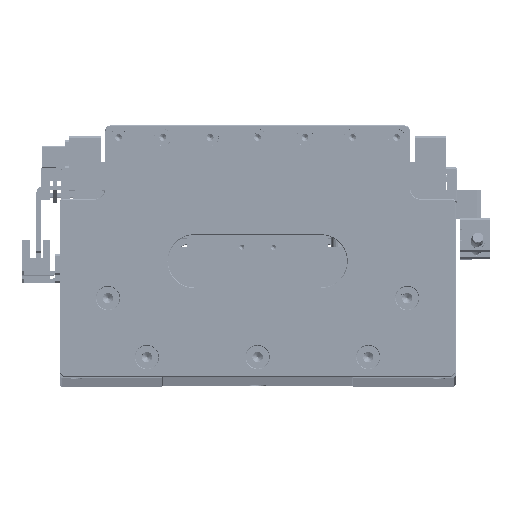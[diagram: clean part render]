
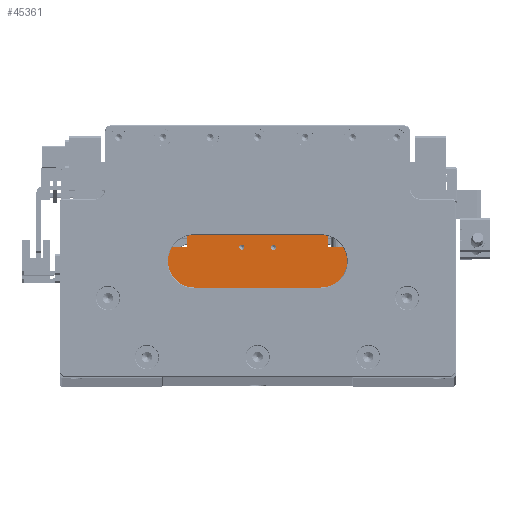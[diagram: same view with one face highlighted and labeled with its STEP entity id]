
A CAD part, top view. The second image highlights one B-rep face of the part: STEP entity #45361.
In plain terms, the highlighted planar face has unit normal (0, 0, 1).
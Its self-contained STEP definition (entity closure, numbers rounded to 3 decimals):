
#1426 = ORIENTED_EDGE ( 'NONE', *, *, #89436, .T. ) ;
#4040 = ORIENTED_EDGE ( 'NONE', *, *, #26707, .T. ) ;
#5403 = ORIENTED_EDGE ( 'NONE', *, *, #35980, .T. ) ;
#7996 = ORIENTED_EDGE ( 'NONE', *, *, #66668, .T. ) ;
#8465 = DIRECTION ( 'NONE',  ( 0., 0., -1. ) ) ;
#9791 = CARTESIAN_POINT ( 'NONE',  ( -8.75, -8., 125. ) ) ;
#10417 = ORIENTED_EDGE ( 'NONE', *, *, #115477, .T. ) ;
#10799 = PLANE ( 'NONE',  #16724 ) ;
#12158 = CARTESIAN_POINT ( 'NONE',  ( -45., -40.2, 125. ) ) ;
#12566 = CARTESIAN_POINT ( 'NONE',  ( -33.5, 0., 125. ) ) ;
#13363 = CARTESIAN_POINT ( 'NONE',  ( 0., -8., 125. ) ) ;
#16724 = AXIS2_PLACEMENT_3D ( 'NONE', #20698, #87050, #30242 ) ;
#17274 = VECTOR ( 'NONE', #118228, 1000. ) ;
#18500 = CIRCLE ( 'NONE', #23425, 1.25 ) ;
#18649 = CARTESIAN_POINT ( 'NONE',  ( -7.5, -8., 125. ) ) ;
#20698 = CARTESIAN_POINT ( 'NONE',  ( 0., 0., 125. ) ) ;
#20783 = AXIS2_PLACEMENT_3D ( 'NONE', #92642, #35884, #102169 ) ;
#20786 = VERTEX_POINT ( 'NONE', #12158 ) ;
#20907 = ORIENTED_EDGE ( 'NONE', *, *, #28316, .T. ) ;
#21036 = CARTESIAN_POINT ( 'NONE',  ( 6.25, -8., 125. ) ) ;
#21667 = FACE_OUTER_BOUND ( 'NONE', #24257, .T. ) ;
#23425 = AXIS2_PLACEMENT_3D ( 'NONE', #18649, #85009, #28183 ) ;
#24257 = EDGE_LOOP ( 'NONE', ( #99243, #10417, #78969, #4040, #5403, #114319, #7996, #1426 ) ) ;
#24648 = FACE_BOUND ( 'NONE', #49626, .T. ) ;
#24805 = CARTESIAN_POINT ( 'NONE',  ( -33.5, -8., 125. ) ) ;
#25164 = VECTOR ( 'NONE', #90836, 1000. ) ;
#26707 = EDGE_CURVE ( 'NONE', #80214, #80959, #58622, .T. ) ;
#28183 = DIRECTION ( 'NONE',  ( 1., 0., 0. ) ) ;
#28316 = EDGE_CURVE ( 'NONE', #109390, #77239, #18500, .T. ) ;
#30242 = DIRECTION ( 'NONE',  ( 1., 0., 0. ) ) ;
#33624 = DIRECTION ( 'NONE',  ( 0., 0., -1. ) ) ;
#34037 = CARTESIAN_POINT ( 'NONE',  ( 0., -8., 125. ) ) ;
#35884 = DIRECTION ( 'NONE',  ( 0., 0., -1. ) ) ;
#35980 = EDGE_CURVE ( 'NONE', #80959, #86854, #75613, .T. ) ;
#38064 = VECTOR ( 'NONE', #78910, 1000. ) ;
#38328 = VECTOR ( 'NONE', #119236, 1000. ) ;
#40850 = CARTESIAN_POINT ( 'NONE',  ( 45., 0., 125. ) ) ;
#41057 = LINE ( 'NONE', #12566, #38064 ) ;
#43662 = EDGE_CURVE ( 'NONE', #86854, #51344, #85815, .T. ) ;
#44119 = AXIS2_PLACEMENT_3D ( 'NONE', #90439, #33624, #99947 ) ;
#45361 = ADVANCED_FACE ( 'NONE', ( #21667, #46909, #24648 ), #10799, .T. ) ;
#46134 = AXIS2_PLACEMENT_3D ( 'NONE', #65190, #8465, #74757 ) ;
#46909 = FACE_BOUND ( 'NONE', #92218, .T. ) ;
#49558 = VECTOR ( 'NONE', #86949, 1000. ) ;
#49626 = EDGE_LOOP ( 'NONE', ( #20907, #117682 ) ) ;
#51344 = VERTEX_POINT ( 'NONE', #75402 ) ;
#52910 = CARTESIAN_POINT ( 'NONE',  ( 33.5, 0., 125. ) ) ;
#54603 = CARTESIAN_POINT ( 'NONE',  ( -6.25, -8., 125. ) ) ;
#56795 = VERTEX_POINT ( 'NONE', #24805 ) ;
#58622 = LINE ( 'NONE', #40850, #61647 ) ;
#61647 = VECTOR ( 'NONE', #69440, 1000. ) ;
#62316 = VECTOR ( 'NONE', #72207, 1000. ) ;
#62402 = EDGE_CURVE ( 'NONE', #56795, #88268, #71380, .T. ) ;
#62477 = EDGE_CURVE ( 'NONE', #111356, #111104, #118758, .T. ) ;
#65070 = CIRCLE ( 'NONE', #46134, 1.25 ) ;
#65190 = CARTESIAN_POINT ( 'NONE',  ( 7.5, -8., 125. ) ) ;
#66668 = EDGE_CURVE ( 'NONE', #51344, #76447, #67675, .T. ) ;
#67675 = LINE ( 'NONE', #70643, #17274 ) ;
#69440 = DIRECTION ( 'NONE',  ( 0., 1., 0. ) ) ;
#70054 = CARTESIAN_POINT ( 'NONE',  ( -45., -8., 125. ) ) ;
#70643 = CARTESIAN_POINT ( 'NONE',  ( 0., 0., 125. ) ) ;
#71380 = LINE ( 'NONE', #13363, #77301 ) ;
#72207 = DIRECTION ( 'NONE',  ( 0., -1., 0. ) ) ;
#74268 = ORIENTED_EDGE ( 'NONE', *, *, #62477, .T. ) ;
#74289 = CARTESIAN_POINT ( 'NONE',  ( 45., -8., 125. ) ) ;
#74757 = DIRECTION ( 'NONE',  ( 1., 0., 0. ) ) ;
#75402 = CARTESIAN_POINT ( 'NONE',  ( 33.5, 0., 125. ) ) ;
#75613 = LINE ( 'NONE', #34037, #25164 ) ;
#76165 = ORIENTED_EDGE ( 'NONE', *, *, #84167, .T. ) ;
#76447 = VERTEX_POINT ( 'NONE', #110621 ) ;
#77239 = VERTEX_POINT ( 'NONE', #9791 ) ;
#77301 = VECTOR ( 'NONE', #98297, 1000. ) ;
#77403 = CARTESIAN_POINT ( 'NONE',  ( -45., -40.2, 125. ) ) ;
#78910 = DIRECTION ( 'NONE',  ( 0., -1., 0. ) ) ;
#78969 = ORIENTED_EDGE ( 'NONE', *, *, #79847, .T. ) ;
#79847 = EDGE_CURVE ( 'NONE', #20786, #80214, #100013, .T. ) ;
#80214 = VERTEX_POINT ( 'NONE', #110431 ) ;
#80959 = VERTEX_POINT ( 'NONE', #74289 ) ;
#83419 = CIRCLE ( 'NONE', #20783, 1.25 ) ;
#83766 = CARTESIAN_POINT ( 'NONE',  ( 8.75, -8., 125. ) ) ;
#84167 = EDGE_CURVE ( 'NONE', #111104, #111356, #65070, .T. ) ;
#85009 = DIRECTION ( 'NONE',  ( 0., 0., -1. ) ) ;
#85815 = LINE ( 'NONE', #52910, #38328 ) ;
#86854 = VERTEX_POINT ( 'NONE', #115210 ) ;
#86949 = DIRECTION ( 'NONE',  ( 1., 0., 0. ) ) ;
#87050 = DIRECTION ( 'NONE',  ( 0., 0., 1. ) ) ;
#87567 = LINE ( 'NONE', #99955, #62316 ) ;
#88268 = VERTEX_POINT ( 'NONE', #70054 ) ;
#89436 = EDGE_CURVE ( 'NONE', #76447, #56795, #41057, .T. ) ;
#90439 = CARTESIAN_POINT ( 'NONE',  ( 7.5, -8., 125. ) ) ;
#90836 = DIRECTION ( 'NONE',  ( -1., 0., 0. ) ) ;
#92218 = EDGE_LOOP ( 'NONE', ( #76165, #74268 ) ) ;
#92642 = CARTESIAN_POINT ( 'NONE',  ( -7.5, -8., 125. ) ) ;
#98297 = DIRECTION ( 'NONE',  ( -1., 0., 0. ) ) ;
#99243 = ORIENTED_EDGE ( 'NONE', *, *, #62402, .T. ) ;
#99947 = DIRECTION ( 'NONE',  ( 1., 0., 0. ) ) ;
#99955 = CARTESIAN_POINT ( 'NONE',  ( -45., 0., 125. ) ) ;
#100013 = LINE ( 'NONE', #77403, #49558 ) ;
#102169 = DIRECTION ( 'NONE',  ( 1., 0., 0. ) ) ;
#108722 = EDGE_CURVE ( 'NONE', #77239, #109390, #83419, .T. ) ;
#109390 = VERTEX_POINT ( 'NONE', #54603 ) ;
#110431 = CARTESIAN_POINT ( 'NONE',  ( 45., -40.2, 125. ) ) ;
#110621 = CARTESIAN_POINT ( 'NONE',  ( -33.5, 0., 125. ) ) ;
#111104 = VERTEX_POINT ( 'NONE', #83766 ) ;
#111356 = VERTEX_POINT ( 'NONE', #21036 ) ;
#114319 = ORIENTED_EDGE ( 'NONE', *, *, #43662, .T. ) ;
#115210 = CARTESIAN_POINT ( 'NONE',  ( 33.5, -8., 125. ) ) ;
#115477 = EDGE_CURVE ( 'NONE', #88268, #20786, #87567, .T. ) ;
#117682 = ORIENTED_EDGE ( 'NONE', *, *, #108722, .T. ) ;
#118228 = DIRECTION ( 'NONE',  ( -1., 0., 0. ) ) ;
#118758 = CIRCLE ( 'NONE', #44119, 1.25 ) ;
#119236 = DIRECTION ( 'NONE',  ( 0., 1., 0. ) ) ;
